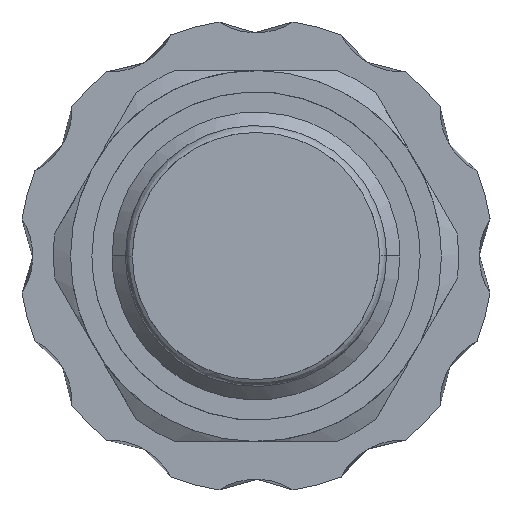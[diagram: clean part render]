
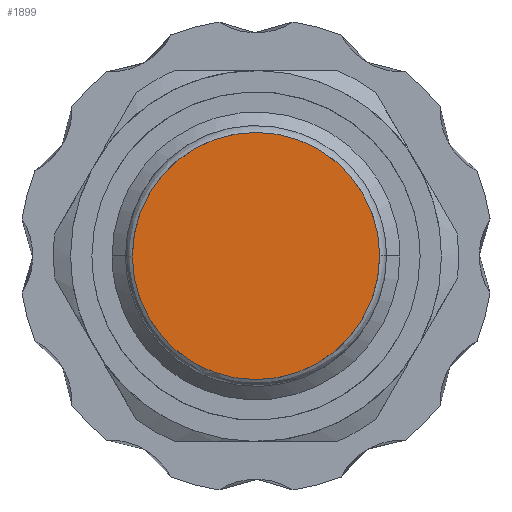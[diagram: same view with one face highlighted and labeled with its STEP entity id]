
A CAD part, front view. The second image highlights one B-rep face of the part: STEP entity #1899.
In plain terms, the highlighted planar face has unit normal (0, -1, 0).
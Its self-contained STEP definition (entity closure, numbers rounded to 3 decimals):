
#6 = VERTEX_POINT ( 'NONE', #4866 ) ;
#72 = VERTEX_POINT ( 'NONE', #2511 ) ;
#191 = ORIENTED_EDGE ( 'NONE', *, *, #846, .F. ) ;
#199 = ORIENTED_EDGE ( 'NONE', *, *, #847, .F. ) ;
#846 = EDGE_CURVE ( 'NONE', #72, #6, #2839, .T. ) ;
#847 = EDGE_CURVE ( 'NONE', #6, #72, #2840, .T. ) ;
#1899 = ADVANCED_FACE ( 'NONE', ( #6396 ), #7462, .T. ) ;
#2033 = EDGE_LOOP ( 'NONE', ( #199, #191 ) ) ;
#2511 = CARTESIAN_POINT ( 'NONE',  ( 9., -23., 0. ) ) ;
#2839 = B_SPLINE_CURVE_WITH_KNOTS ( 'NONE', 8,
 ( #4108, #4106, #4120, #4121, #4122, #4124, #4125, #4126, #4128 ),
 .UNSPECIFIED., .F., .F.,
 ( 9, 9 ),
 ( 0., 1. ),
 .UNSPECIFIED. ) ;
#2840 = B_SPLINE_CURVE_WITH_KNOTS ( 'NONE', 8,
 ( #4117, #4119, #4133, #4134, #4135, #4136, #4137, #4138, #4139 ),
 .UNSPECIFIED., .F., .F.,
 ( 9, 9 ),
 ( 0., 1. ),
 .UNSPECIFIED. ) ;
#4106 = CARTESIAN_POINT ( 'NONE',  ( 9., -23., -3.534 ) ) ;
#4108 = CARTESIAN_POINT ( 'NONE',  ( 9., -23., 0. ) ) ;
#4117 = CARTESIAN_POINT ( 'NONE',  ( -9., -23., 0. ) ) ;
#4119 = CARTESIAN_POINT ( 'NONE',  ( -9., -23., 3.534 ) ) ;
#4120 = CARTESIAN_POINT ( 'NONE',  ( 7.414, -23., -7.069 ) ) ;
#4121 = CARTESIAN_POINT ( 'NONE',  ( 4.242, -23., -9.772 ) ) ;
#4122 = CARTESIAN_POINT ( 'NONE',  ( 0.001, -23., -10.816 ) ) ;
#4124 = CARTESIAN_POINT ( 'NONE',  ( -4.243, -23., -9.772 ) ) ;
#4125 = CARTESIAN_POINT ( 'NONE',  ( -7.414, -23., -7.069 ) ) ;
#4126 = CARTESIAN_POINT ( 'NONE',  ( -9., -23., -3.534 ) ) ;
#4128 = CARTESIAN_POINT ( 'NONE',  ( -9., -23., 0. ) ) ;
#4133 = CARTESIAN_POINT ( 'NONE',  ( -7.414, -23., 7.069 ) ) ;
#4134 = CARTESIAN_POINT ( 'NONE',  ( -4.242, -23., 9.772 ) ) ;
#4135 = CARTESIAN_POINT ( 'NONE',  ( -0.001, -23., 10.816 ) ) ;
#4136 = CARTESIAN_POINT ( 'NONE',  ( 4.243, -23., 9.772 ) ) ;
#4137 = CARTESIAN_POINT ( 'NONE',  ( 7.414, -23., 7.069 ) ) ;
#4138 = CARTESIAN_POINT ( 'NONE',  ( 9., -23., 3.534 ) ) ;
#4139 = CARTESIAN_POINT ( 'NONE',  ( 9., -23., 0. ) ) ;
#4866 = CARTESIAN_POINT ( 'NONE',  ( -9., -23., 0. ) ) ;
#6396 = FACE_OUTER_BOUND ( 'NONE', #2033, .T. ) ;
#7091 = AXIS2_PLACEMENT_3D ( 'NONE', #7444, #7464, #7465 ) ;
#7444 = CARTESIAN_POINT ( 'NONE',  ( 9.36, -23., 9.36 ) ) ;
#7462 = PLANE ( 'NONE',  #7091 ) ;
#7464 = DIRECTION ( 'NONE',  ( 0., -1., 0. ) ) ;
#7465 = DIRECTION ( 'NONE',  ( -1., 0., 0. ) ) ;
